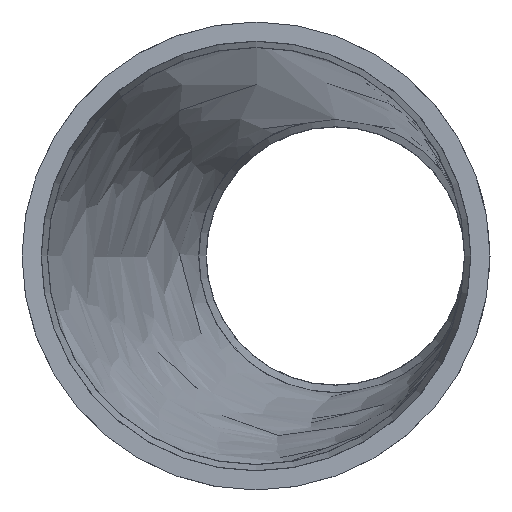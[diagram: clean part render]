
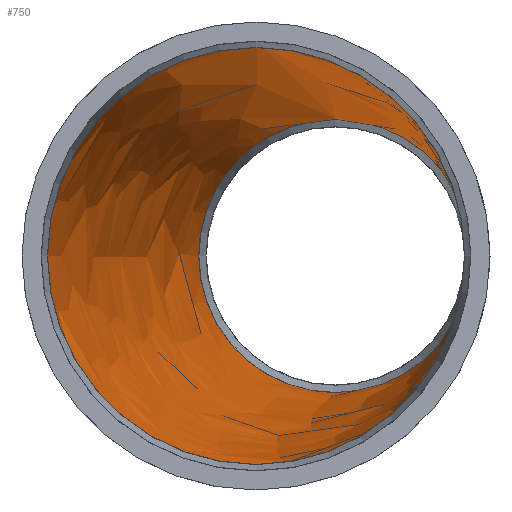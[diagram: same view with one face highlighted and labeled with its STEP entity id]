
A CAD part, left-side view. The second image highlights one B-rep face of the part: STEP entity #750.
In plain terms, the highlighted free-form (B-spline) face has degree [1, 2] with [2, 9] control points.
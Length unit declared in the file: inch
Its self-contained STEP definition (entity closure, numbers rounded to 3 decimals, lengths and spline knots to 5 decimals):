
#57=B_SPLINE_CURVE_WITH_KNOTS('',1,(#1385,#1386),.UNSPECIFIED.,.F.,.F.,
(2,2),(0.00033,5.31337),.UNSPECIFIED.);
#59=(
BOUNDED_SURFACE()
B_SPLINE_SURFACE(1,2,((#1367,#1368,#1369,#1370,#1371,#1372,#1373,#1374,
#1375),(#1376,#1377,#1378,#1379,#1380,#1381,#1382,#1383,#1384)),
 .UNSPECIFIED.,.F.,.T.,.F.)
B_SPLINE_SURFACE_WITH_KNOTS((2,2),(3,2,2,2,3),(-0.07319,5.35762),
(-3.14159,-1.5708,0.,1.5708,3.14159),
 .UNSPECIFIED.)
GEOMETRIC_REPRESENTATION_ITEM()
RATIONAL_B_SPLINE_SURFACE(((1.,0.707,1.,0.707,1.,
0.707,1.,0.707,1.),(1.,0.707,1.,0.707,
1.,0.707,1.,0.707,1.)))
REPRESENTATION_ITEM('')
SURFACE()
);
#127=FACE_OUTER_BOUND('',#159,.T.);
#159=EDGE_LOOP('',(#612,#613,#614,#615,#616,#617,#618,#619,#620,#621));
#209=CIRCLE('',#823,1.32);
#210=CIRCLE('',#824,1.32);
#211=CIRCLE('',#825,1.32);
#212=CIRCLE('',#826,1.32);
#223=CIRCLE('',#840,0.84);
#224=CIRCLE('',#841,0.84);
#225=CIRCLE('',#842,0.84);
#226=CIRCLE('',#843,0.84);
#298=VERTEX_POINT('',#1280);
#299=VERTEX_POINT('',#1281);
#300=VERTEX_POINT('',#1283);
#301=VERTEX_POINT('',#1285);
#311=VERTEX_POINT('',#1312);
#312=VERTEX_POINT('',#1313);
#313=VERTEX_POINT('',#1315);
#314=VERTEX_POINT('',#1317);
#391=EDGE_CURVE('',#298,#299,#209,.T.);
#392=EDGE_CURVE('',#299,#300,#210,.T.);
#393=EDGE_CURVE('',#300,#301,#211,.T.);
#395=EDGE_CURVE('',#301,#298,#212,.T.);
#407=EDGE_CURVE('',#311,#312,#223,.T.);
#408=EDGE_CURVE('',#312,#313,#224,.T.);
#409=EDGE_CURVE('',#313,#314,#225,.T.);
#411=EDGE_CURVE('',#314,#311,#226,.T.);
#435=EDGE_CURVE('',#299,#313,#57,.T.);
#612=ORIENTED_EDGE('',*,*,#391,.F.);
#613=ORIENTED_EDGE('',*,*,#395,.F.);
#614=ORIENTED_EDGE('',*,*,#393,.F.);
#615=ORIENTED_EDGE('',*,*,#392,.F.);
#616=ORIENTED_EDGE('',*,*,#435,.T.);
#617=ORIENTED_EDGE('',*,*,#408,.F.);
#618=ORIENTED_EDGE('',*,*,#407,.F.);
#619=ORIENTED_EDGE('',*,*,#411,.F.);
#620=ORIENTED_EDGE('',*,*,#409,.F.);
#621=ORIENTED_EDGE('',*,*,#435,.F.);
#750=ADVANCED_FACE('',(#127),#59,.T.);
#823=AXIS2_PLACEMENT_3D('',#1282,#1004,#1005);
#824=AXIS2_PLACEMENT_3D('',#1284,#1006,#1007);
#825=AXIS2_PLACEMENT_3D('',#1286,#1008,#1009);
#826=AXIS2_PLACEMENT_3D('',#1288,#1011,#1012);
#840=AXIS2_PLACEMENT_3D('',#1314,#1040,#1041);
#841=AXIS2_PLACEMENT_3D('',#1316,#1042,#1043);
#842=AXIS2_PLACEMENT_3D('',#1318,#1044,#1045);
#843=AXIS2_PLACEMENT_3D('',#1320,#1047,#1048);
#1004=DIRECTION('center_axis',(1.,0.,0.));
#1005=DIRECTION('ref_axis',(0.,1.,0.));
#1006=DIRECTION('center_axis',(1.,0.,0.));
#1007=DIRECTION('ref_axis',(0.,1.,0.));
#1008=DIRECTION('center_axis',(1.,0.,0.));
#1009=DIRECTION('ref_axis',(0.,1.,0.));
#1011=DIRECTION('center_axis',(1.,0.,0.));
#1012=DIRECTION('ref_axis',(0.,1.,0.));
#1040=DIRECTION('center_axis',(-1.,0.,0.));
#1041=DIRECTION('ref_axis',(0.,-1.,0.));
#1042=DIRECTION('center_axis',(-1.,0.,0.));
#1043=DIRECTION('ref_axis',(0.,-1.,0.));
#1044=DIRECTION('center_axis',(-1.,0.,0.));
#1045=DIRECTION('ref_axis',(0.,-1.,0.));
#1047=DIRECTION('center_axis',(-1.,0.,0.));
#1048=DIRECTION('ref_axis',(0.,-1.,0.));
#1280=CARTESIAN_POINT('',(1.26,-1.29969,-0.23065));
#1281=CARTESIAN_POINT('',(1.26,-0.00628,1.31999));
#1282=CARTESIAN_POINT('Origin',(1.26,0.,0.));
#1283=CARTESIAN_POINT('',(1.26,-1.29969,0.23065));
#1284=CARTESIAN_POINT('Origin',(1.26,0.,0.));
#1285=CARTESIAN_POINT('',(1.26,-1.32,0.));
#1286=CARTESIAN_POINT('Origin',(1.26,0.,0.));
#1288=CARTESIAN_POINT('Origin',(1.26,0.,0.));
#1312=CARTESIAN_POINT('',(8.24,-1.31458,-0.14678));
#1313=CARTESIAN_POINT('',(8.24,-1.31458,0.14678));
#1314=CARTESIAN_POINT('Origin',(8.24,-0.4875,0.));
#1315=CARTESIAN_POINT('',(8.24,-0.4915,0.83999));
#1316=CARTESIAN_POINT('Origin',(8.24,-0.4875,0.));
#1317=CARTESIAN_POINT('',(8.24,0.3525,0.));
#1318=CARTESIAN_POINT('Origin',(8.24,-0.4875,0.));
#1320=CARTESIAN_POINT('Origin',(8.24,-0.4875,0.));
#1367=CARTESIAN_POINT('Ctrl Pts',(1.16341,0.00043,
1.32663));
#1368=CARTESIAN_POINT('Ctrl Pts',(1.07164,-1.3198,1.32663));
#1369=CARTESIAN_POINT('Ctrl Pts',(1.07164,-1.3198,0.));
#1370=CARTESIAN_POINT('Ctrl Pts',(1.07164,-1.3198,-1.32663));
#1371=CARTESIAN_POINT('Ctrl Pts',(1.16341,0.00043,
-1.32663));
#1372=CARTESIAN_POINT('Ctrl Pts',(1.25519,1.32067,-1.32663));
#1373=CARTESIAN_POINT('Ctrl Pts',(1.25519,1.32067,0.));
#1374=CARTESIAN_POINT('Ctrl Pts',(1.25519,1.32067,1.32663));
#1375=CARTESIAN_POINT('Ctrl Pts',(1.16341,0.00043,
1.32663));
#1376=CARTESIAN_POINT('Ctrl Pts',(8.29813,-0.49554,0.83599));
#1377=CARTESIAN_POINT('Ctrl Pts',(8.2403,-1.3275,0.83599));
#1378=CARTESIAN_POINT('Ctrl Pts',(8.2403,-1.3275,0.));
#1379=CARTESIAN_POINT('Ctrl Pts',(8.2403,-1.3275,-0.83599));
#1380=CARTESIAN_POINT('Ctrl Pts',(8.29813,-0.49554,-0.83599));
#1381=CARTESIAN_POINT('Ctrl Pts',(8.35596,0.33643,-0.83599));
#1382=CARTESIAN_POINT('Ctrl Pts',(8.35596,0.33643,0.));
#1383=CARTESIAN_POINT('Ctrl Pts',(8.35596,0.33643,0.83599));
#1384=CARTESIAN_POINT('Ctrl Pts',(8.29813,-0.49554,0.83599));
#1385=CARTESIAN_POINT('Ctrl Pts',(1.26,-0.00628,1.31999));
#1386=CARTESIAN_POINT('Ctrl Pts',(8.24,-0.4915,0.83999));
